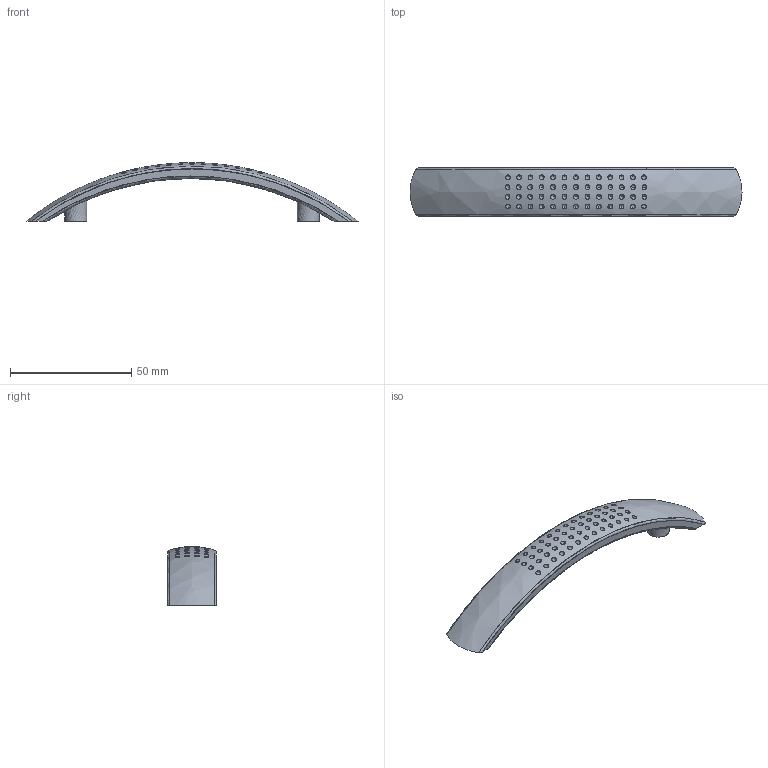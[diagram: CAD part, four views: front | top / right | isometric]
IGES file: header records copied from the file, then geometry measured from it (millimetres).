
Start section: C
Global section: file name: 0083-137.igs; native system: By Siemens PLM Incorporated; preprocessor: XPlus GENERIC/IGES 16.0.42; author: Author; organization: Title; date: 20260104.154820; units: millimetre
Bounding box: 137 x 20 x 24.18 mm (x, y, z)
Surface area: 7615.6 mm2 (no closed solid volume)
Topology: 0 solids, 0 shells, 73 faces, 354 edges, 301 vertices
Faces by surface type: bspline 73
